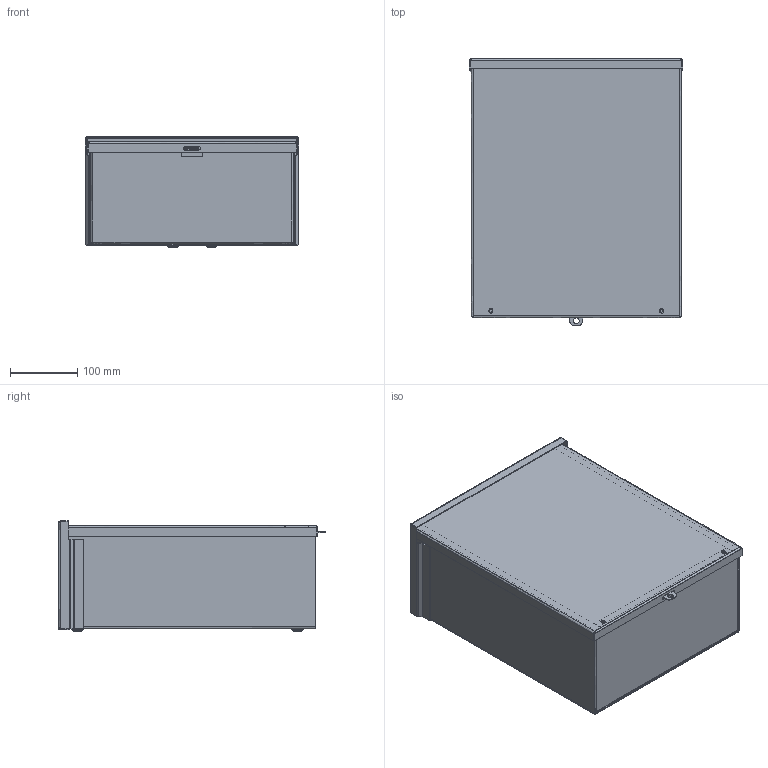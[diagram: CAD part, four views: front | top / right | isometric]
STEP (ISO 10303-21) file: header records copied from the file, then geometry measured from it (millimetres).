
FILE_DESCRIPTION((''),'2;1');
FILE_NAME('D:\scratch\ideas\a15r126nk.stp','2007-01-24T09:13:44',( 'User'),('SDRC'),'I-DEAS Master Series 9','UNIX','Yes');
FILE_SCHEMA(('AUTOMOTIVE_DESIGN { 1 0 10303 214 0 1 1 1 }'));
Length unit declared in the file: inch
Products named in the file (7): 13502; 3rsc_wmt_body_15x12x6_nk; 3rsc_top_12x6; 3rsc_bottom_12x6_nk; 3rsc_body_15x12x6; 3rsc_cover_15x12; 78124001
Assembly tree (6 placements, depth 3):
  13502
    3rsc_wmt_body_15x12x6_nk
      3rsc_top_12x6
      3rsc_bottom_12x6_nk
      3rsc_body_15x12x6
    3rsc_cover_15x12
    78124001
Bounding box: 317.5 x 396.95 x 163.83 mm (x, y, z)
Volume: 697366.4 mm3; surface area: 1006929.3 mm2
Topology: 5 solids, 5 shells, 239 faces, 615 edges, 392 vertices
Faces by surface type: bspline 239
Entity records: 7574 total; most frequent: CARTESIAN_POINT 3603, ORIENTED_EDGE 1230, EDGE_CURVE 615, VERTEX_POINT 392, QUASI_UNIFORM_CURVE 308, EDGE_LOOP 273, FACE_OUTER_BOUND 239, ADVANCED_FACE 239
